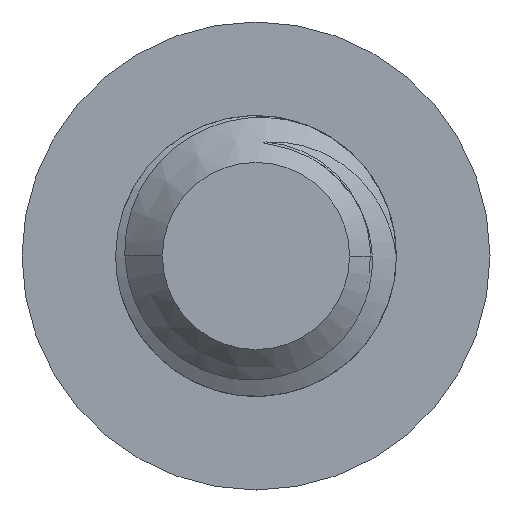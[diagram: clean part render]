
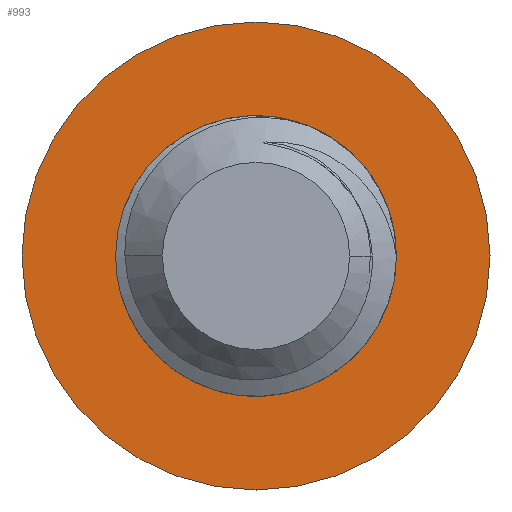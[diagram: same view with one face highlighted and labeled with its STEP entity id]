
A CAD part, front view. The second image highlights one B-rep face of the part: STEP entity #993.
In plain terms, the highlighted planar face has unit normal (0, -1, 0).
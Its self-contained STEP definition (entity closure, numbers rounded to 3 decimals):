
#371 = CIRCLE ( 'NONE', #4896, 1.5 ) ;
#388 = CIRCLE ( 'NONE', #4917, 2.5 ) ;
#390 = CIRCLE ( 'NONE', #4914, 1.5 ) ;
#392 = CIRCLE ( 'NONE', #4918, 1.5 ) ;
#399 = CIRCLE ( 'NONE', #4773, 1.5 ) ;
#410 = FACE_BOUND ( 'NONE', #3438, .T. ) ;
#419 = FACE_OUTER_BOUND ( 'NONE', #3455, .T. ) ;
#581 = CIRCLE ( 'NONE', #3201, 2.5 ) ;
#856 = DIRECTION ( 'NONE',  ( -1., 0., 0. ) ) ;
#857 = DIRECTION ( 'NONE',  ( 0., 1., 0. ) ) ;
#858 = CARTESIAN_POINT ( 'NONE',  ( 0., 0., 0. ) ) ;
#993 = ADVANCED_FACE ( 'NONE', ( #419, #410 ), #3200, .F. ) ;
#1050 = CARTESIAN_POINT ( 'NONE',  ( -1.5, 0., 0. ) ) ;
#1066 = CARTESIAN_POINT ( 'NONE',  ( 2.5, 0., 0. ) ) ;
#1081 = CARTESIAN_POINT ( 'NONE',  ( 1.5, 0., -0.014 ) ) ;
#1088 = CARTESIAN_POINT ( 'NONE',  ( 1.061, 0., -1.061 ) ) ;
#1097 = CARTESIAN_POINT ( 'NONE',  ( 1.5, 0., 0. ) ) ;
#1098 = CARTESIAN_POINT ( 'NONE',  ( -2.5, 0., 0. ) ) ;
#1317 = DIRECTION ( 'NONE',  ( -1., 0., 0. ) ) ;
#1321 = DIRECTION ( 'NONE',  ( -1., 0., 0. ) ) ;
#1322 = DIRECTION ( 'NONE',  ( 0., 1., 0. ) ) ;
#1323 = CARTESIAN_POINT ( 'NONE',  ( 0., 0., 0. ) ) ;
#1326 = DIRECTION ( 'NONE',  ( 0., 1., 0. ) ) ;
#1498 = DIRECTION ( 'NONE',  ( 0., 1., 0. ) ) ;
#1499 = CARTESIAN_POINT ( 'NONE',  ( 0., 0., 0. ) ) ;
#1501 = DIRECTION ( 'NONE',  ( -1., 0., 0. ) ) ;
#1502 = DIRECTION ( 'NONE',  ( 0., 1., 0. ) ) ;
#1503 = CARTESIAN_POINT ( 'NONE',  ( 0., 0., 0. ) ) ;
#1505 = DIRECTION ( 'NONE',  ( -1., 0., 0. ) ) ;
#1506 = DIRECTION ( 'NONE',  ( 0., 1., 0. ) ) ;
#1507 = CARTESIAN_POINT ( 'NONE',  ( 0., 0., 0. ) ) ;
#1592 = CARTESIAN_POINT ( 'NONE',  ( 0., 0., 0. ) ) ;
#1775 = DIRECTION ( 'NONE',  ( -1., 0., 0. ) ) ;
#2089 = EDGE_CURVE ( 'NONE', #3443, #3308, #399, .T. ) ;
#2092 = EDGE_CURVE ( 'NONE', #3308, #3329, #392, .T. ) ;
#2093 = EDGE_CURVE ( 'NONE', #3365, #3307, #388, .T. ) ;
#2094 = EDGE_CURVE ( 'NONE', #3329, #3335, #390, .T. ) ;
#2119 = EDGE_CURVE ( 'NONE', #3335, #3443, #371, .T. ) ;
#3167 = CARTESIAN_POINT ( 'NONE',  ( 1.5, 0., 0. ) ) ;
#3194 = DIRECTION ( 'NONE',  ( -1., 0., 0. ) ) ;
#3200 = PLANE ( 'NONE',  #4849 ) ;
#3201 = AXIS2_PLACEMENT_3D ( 'NONE', #858, #857, #856 ) ;
#3212 = DIRECTION ( 'NONE',  ( 0., 1., 0. ) ) ;
#3307 = VERTEX_POINT ( 'NONE', #1098 ) ;
#3308 = VERTEX_POINT ( 'NONE', #1097 ) ;
#3329 = VERTEX_POINT ( 'NONE', #1081 ) ;
#3335 = VERTEX_POINT ( 'NONE', #1088 ) ;
#3365 = VERTEX_POINT ( 'NONE', #1066 ) ;
#3403 = ORIENTED_EDGE ( 'NONE', *, *, #2092, .T. ) ;
#3409 = ORIENTED_EDGE ( 'NONE', *, *, #2093, .F. ) ;
#3438 = EDGE_LOOP ( 'NONE', ( #3562, #3439, #3511, #3403 ) ) ;
#3439 = ORIENTED_EDGE ( 'NONE', *, *, #2119, .T. ) ;
#3443 = VERTEX_POINT ( 'NONE', #1050 ) ;
#3455 = EDGE_LOOP ( 'NONE', ( #3470, #3409 ) ) ;
#3470 = ORIENTED_EDGE ( 'NONE', *, *, #4956, .F. ) ;
#3511 = ORIENTED_EDGE ( 'NONE', *, *, #2089, .T. ) ;
#3562 = ORIENTED_EDGE ( 'NONE', *, *, #2094, .T. ) ;
#4773 = AXIS2_PLACEMENT_3D ( 'NONE', #1507, #1506, #1505 ) ;
#4849 = AXIS2_PLACEMENT_3D ( 'NONE', #3167, #3212, #3194 ) ;
#4896 = AXIS2_PLACEMENT_3D ( 'NONE', #1323, #1322, #1321 ) ;
#4914 = AXIS2_PLACEMENT_3D ( 'NONE', #1592, #1326, #1317 ) ;
#4917 = AXIS2_PLACEMENT_3D ( 'NONE', #1499, #1498, #1775 ) ;
#4918 = AXIS2_PLACEMENT_3D ( 'NONE', #1503, #1502, #1501 ) ;
#4956 = EDGE_CURVE ( 'NONE', #3307, #3365, #581, .T. ) ;
